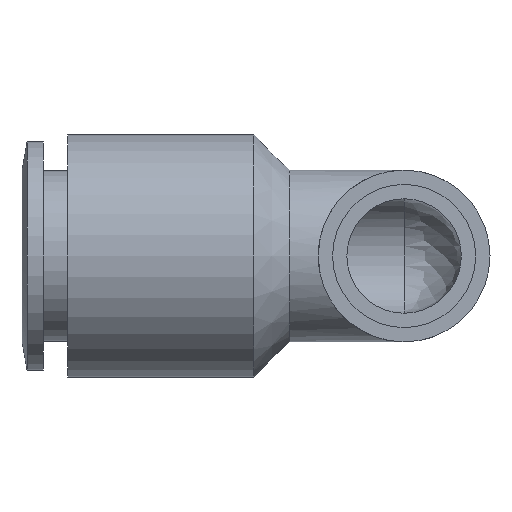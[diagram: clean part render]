
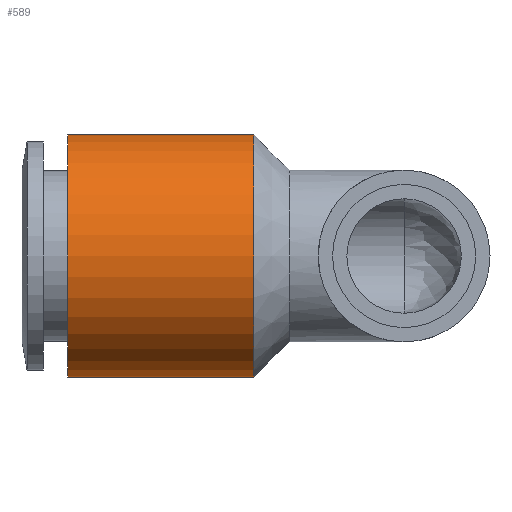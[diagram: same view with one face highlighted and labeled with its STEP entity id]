
A CAD part, left-side view. The second image highlights one B-rep face of the part: STEP entity #589.
In plain terms, the highlighted cylindrical face has radius 8.5 mm (diameter 17 mm), a full revolution.
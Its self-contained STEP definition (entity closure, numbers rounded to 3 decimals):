
#555=CARTESIAN_POINT('',(-8.5,10.5,0.0));
#556=VERTEX_POINT('',#555);
#557=CARTESIAN_POINT('',(0.0,10.5,0.0));
#558=DIRECTION('',(0.0,1.0,0.0));
#559=DIRECTION('',(-1.0,0.0,0.0));
#560=AXIS2_PLACEMENT_3D('',#557,#558,#559);
#561=CIRCLE('',#560,8.5);
#562=EDGE_CURVE('',#556,#556,#561,.T.);
#570=CARTESIAN_POINT('',(0.0,17.0,0.0));
#571=DIRECTION('',(0.0,1.0,0.0));
#572=DIRECTION('',(-1.0,0.0,0.0));
#573=AXIS2_PLACEMENT_3D('',#570,#571,#572);
#574=CYLINDRICAL_SURFACE('',#573,8.5);
#575=CARTESIAN_POINT('',(-8.5,23.5,0.0));
#576=VERTEX_POINT('',#575);
#577=CARTESIAN_POINT('',(0.0,23.5,0.0));
#578=DIRECTION('',(0.0,1.0,0.0));
#579=DIRECTION('',(-1.0,0.0,0.0));
#580=AXIS2_PLACEMENT_3D('',#577,#578,#579);
#581=CIRCLE('',#580,8.5);
#582=EDGE_CURVE('',#576,#576,#581,.T.);
#583=ORIENTED_EDGE('',*,*,#582,.F.);
#584=EDGE_LOOP('',(#583));
#585=FACE_OUTER_BOUND('',#584,.T.);
#586=ORIENTED_EDGE('',*,*,#562,.T.);
#587=EDGE_LOOP('',(#586));
#588=FACE_BOUND('',#587,.T.);
#589=ADVANCED_FACE('',(#585,#588),#574,.T.);
